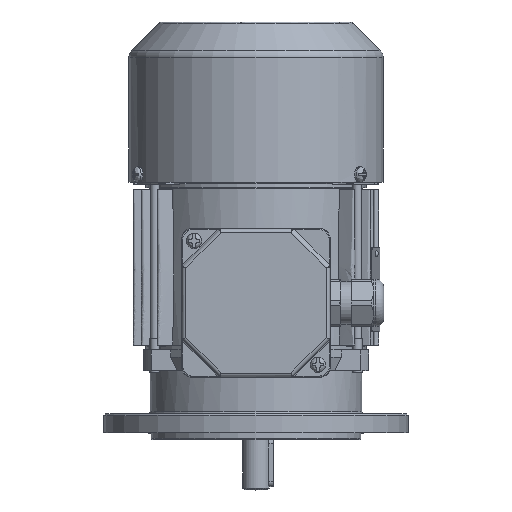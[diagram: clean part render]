
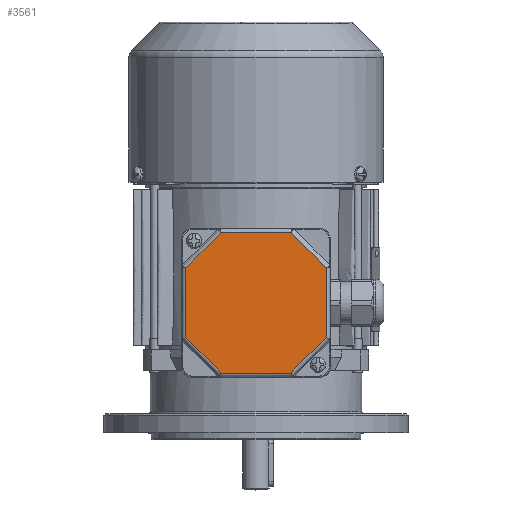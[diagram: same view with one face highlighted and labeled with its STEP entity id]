
A CAD part, top view. The second image highlights one B-rep face of the part: STEP entity #3561.
In plain terms, the highlighted planar face has unit normal (0, 0, 1).
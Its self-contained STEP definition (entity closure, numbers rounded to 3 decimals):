
#3561 = ADVANCED_FACE( '', ( #8565 ), #8566, .T. );
#8565 = FACE_OUTER_BOUND( '', #21327, .T. );
#8566 = PLANE( '', #21328 );
#21327 = EDGE_LOOP( '', ( #57735, #57736, #57737, #57738, #57739, #57740, #57741, #57742 ) );
#21328 = AXIS2_PLACEMENT_3D( '', #57743, #57744, #57745 );
#57735 = ORIENTED_EDGE( '', *, *, #75373, .T. );
#57736 = ORIENTED_EDGE( '', *, *, #75374, .T. );
#57737 = ORIENTED_EDGE( '', *, *, #73853, .T. );
#57738 = ORIENTED_EDGE( '', *, *, #75375, .T. );
#57739 = ORIENTED_EDGE( '', *, *, #75376, .T. );
#57740 = ORIENTED_EDGE( '', *, *, #75377, .T. );
#57741 = ORIENTED_EDGE( '', *, *, #75378, .T. );
#57742 = ORIENTED_EDGE( '', *, *, #75379, .T. );
#57743 = CARTESIAN_POINT( '', ( -39., 39., 12. ) );
#57744 = DIRECTION( '', ( 0., 0., 1. ) );
#57745 = DIRECTION( '', ( 1., 0., 0. ) );
#73853 = EDGE_CURVE( '', #82187, #82188, #82189, .F. );
#75373 = EDGE_CURVE( '', #84838, #84839, #84840, .F. );
#75374 = EDGE_CURVE( '', #84839, #82187, #84841, .T. );
#75375 = EDGE_CURVE( '', #82188, #84842, #84843, .T. );
#75376 = EDGE_CURVE( '', #84842, #84844, #84845, .F. );
#75377 = EDGE_CURVE( '', #84844, #84846, #84847, .T. );
#75378 = EDGE_CURVE( '', #84846, #84848, #84849, .F. );
#75379 = EDGE_CURVE( '', #84848, #84838, #84850, .T. );
#82187 = VERTEX_POINT( '', #95881 );
#82188 = VERTEX_POINT( '', #95882 );
#82189 = LINE( '', #95883, #95884 );
#84838 = VERTEX_POINT( '', #103709 );
#84839 = VERTEX_POINT( '', #103710 );
#84840 = LINE( '', #103711, #103712 );
#84841 = LINE( '', #103713, #103714 );
#84842 = VERTEX_POINT( '', #103715 );
#84843 = LINE( '', #103716, #103717 );
#84844 = VERTEX_POINT( '', #103718 );
#84845 = LINE( '', #103719, #103720 );
#84846 = VERTEX_POINT( '', #103721 );
#84847 = LINE( '', #103722, #103723 );
#84848 = VERTEX_POINT( '', #103724 );
#84849 = LINE( '', #103725, #103726 );
#84850 = LINE( '', #103727, #103728 );
#95881 = CARTESIAN_POINT( '', ( 18.255, 36.825, 12. ) );
#95882 = CARTESIAN_POINT( '', ( -18.255, 36.825, 12. ) );
#95883 = CARTESIAN_POINT( '', ( -19.069, 36.825, 12. ) );
#95884 = VECTOR( '', #132241, 1000. );
#103709 = CARTESIAN_POINT( '', ( 36.825, -18.255, 12. ) );
#103710 = CARTESIAN_POINT( '', ( 36.825, 18.255, 12. ) );
#103711 = CARTESIAN_POINT( '', ( 36.825, 19.069, 12. ) );
#103712 = VECTOR( '', #134241, 1000. );
#103713 = CARTESIAN_POINT( '', ( 17.679, 37.401, 12. ) );
#103714 = VECTOR( '', #134242, 1000. );
#103715 = CARTESIAN_POINT( '', ( -36.825, 18.255, 12. ) );
#103716 = CARTESIAN_POINT( '', ( -37.401, 17.679, 12. ) );
#103717 = VECTOR( '', #134243, 1000. );
#103718 = CARTESIAN_POINT( '', ( -36.825, -18.255, 12. ) );
#103719 = CARTESIAN_POINT( '', ( -36.825, -19.069, 12. ) );
#103720 = VECTOR( '', #134244, 1000. );
#103721 = CARTESIAN_POINT( '', ( -18.255, -36.825, 12. ) );
#103722 = CARTESIAN_POINT( '', ( -17.679, -37.401, 12. ) );
#103723 = VECTOR( '', #134245, 1000. );
#103724 = CARTESIAN_POINT( '', ( 18.255, -36.825, 12. ) );
#103725 = CARTESIAN_POINT( '', ( 19.069, -36.825, 12. ) );
#103726 = VECTOR( '', #134246, 1000. );
#103727 = CARTESIAN_POINT( '', ( 37.401, -17.679, 12. ) );
#103728 = VECTOR( '', #134247, 1000. );
#132241 = DIRECTION( '', ( 1., 0., 0. ) );
#134241 = DIRECTION( '', ( 0., -1., 0. ) );
#134242 = DIRECTION( '', ( -0.707, 0.707, 0. ) );
#134243 = DIRECTION( '', ( -0.707, -0.707, 0. ) );
#134244 = DIRECTION( '', ( 0., 1., 0. ) );
#134245 = DIRECTION( '', ( 0.707, -0.707, 0. ) );
#134246 = DIRECTION( '', ( -1., 0., 0. ) );
#134247 = DIRECTION( '', ( 0.707, 0.707, 0. ) );
